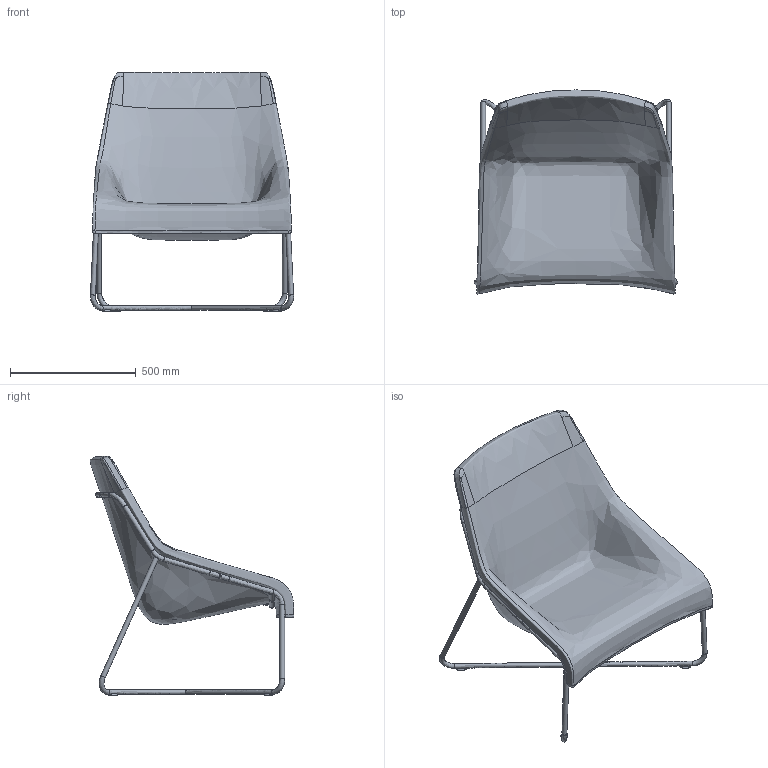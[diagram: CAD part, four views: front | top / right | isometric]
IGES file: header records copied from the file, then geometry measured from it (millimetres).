
Global section: file name: Poltrona aria sin cabecero; native system: Autodesk Inventor 2025; preprocessor: unknown; author: jramirez; date: 20260114.123650; units: millimetre
Bounding box: 808.06 x 810.55 x 951.52 mm (x, y, z)
Volume: 63293784.9 mm3; surface area: 3240351.9 mm2
Topology: 38 solids, 38 shells, 503 faces, 1438 edges, 1046 vertices
Faces by surface type: bspline 503
